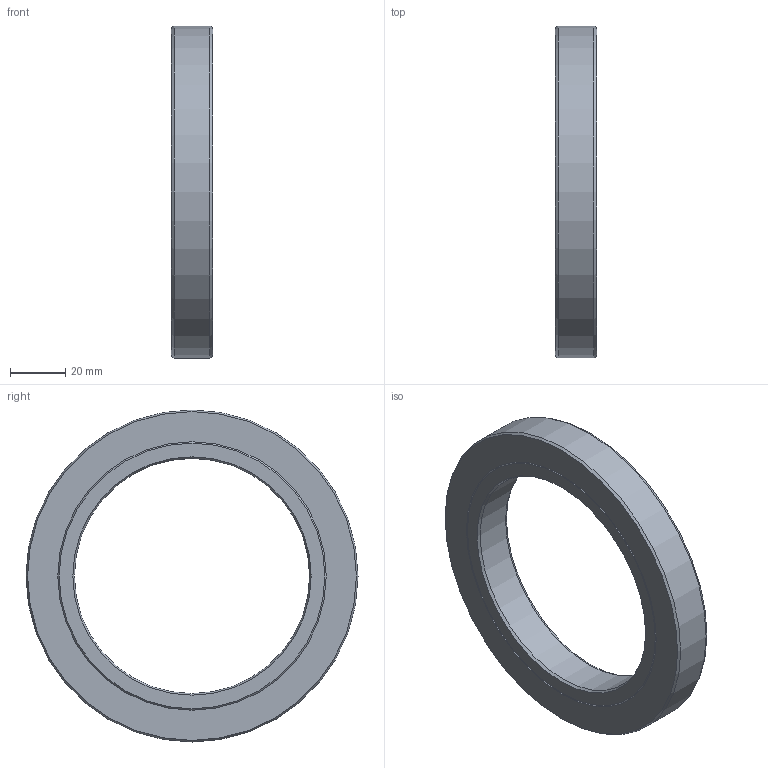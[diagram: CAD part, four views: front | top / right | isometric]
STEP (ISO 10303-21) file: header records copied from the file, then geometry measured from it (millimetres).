
FILE_DESCRIPTION(/* description */ (''),/* implementation_level */ '2;1');
FILE_NAME(/* name */ '301678 S85x120x15.stp',/* time_stamp */ '2016-12-16T14:04:00+01:00',/* author */ (''),/* organization */ (''),/* preprocessor_version */ 'ST-DEVELOPER v15',/* originating_system */ 'SIEMENS PLM Software NX 8.5',/* authorisation */ '');
FILE_SCHEMA (('CONFIG_CONTROL_DESIGN'));
Length unit declared in the file: millimetre
Products named in the file (1): ATE0000143_01
Bounding box: 15 x 120 x 120 mm (x, y, z)
Volume: 81691 mm3; surface area: 32313.8 mm2
Topology: 2 solids, 2 shells, 16 faces, 30 edges, 18 vertices
Faces by surface type: cone 10, plane 4, cylinder 2
Full cylindrical faces by diameter (mm): 85 x1, 120 x1
Entity records: 414 total; most frequent: DIRECTION 66, CARTESIAN_POINT 49, AXIS2_PLACEMENT_3D 33, FACE_BOUND 32, EDGE_LOOP 32, ORIENTED_EDGE 32, ADVANCED_FACE 16, VERTEX_POINT 16
